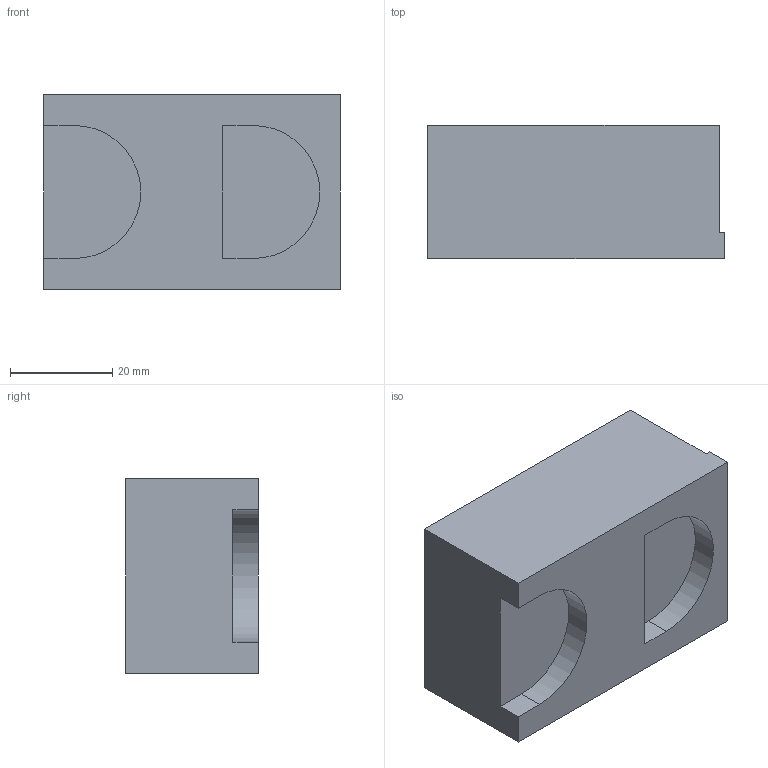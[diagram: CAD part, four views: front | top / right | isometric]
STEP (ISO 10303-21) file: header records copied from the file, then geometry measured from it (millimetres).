
FILE_DESCRIPTION (( 'STEP AP214' ), '1' );
FILE_NAME ('44468-26.STEP', '2020-03-27T13:51:11', ( '' ), ( '' ), 'SwSTEP 2.0', 'SolidWorks 2019', '' );
FILE_SCHEMA (( 'AUTOMOTIVE_DESIGN' ));
Length unit declared in the file: millimetre
Products named in the file (1): 44468-26
Bounding box: 58 x 26 x 38 mm (x, y, z)
Volume: 52291.4 mm3; surface area: 9886.4 mm2
Topology: 1 solids, 1 shells, 17 faces, 42 edges, 28 vertices
Faces by surface type: plane 15, cylinder 2
Entity records: 534 total; most frequent: CARTESIAN_POINT 88, ORIENTED_EDGE 84, DIRECTION 82, EDGE_CURVE 42, LINE 38, VECTOR 38, VERTEX_POINT 28, AXIS2_PLACEMENT_3D 22
